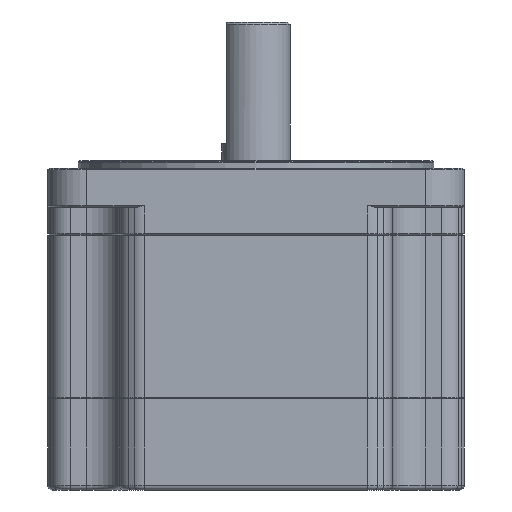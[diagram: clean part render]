
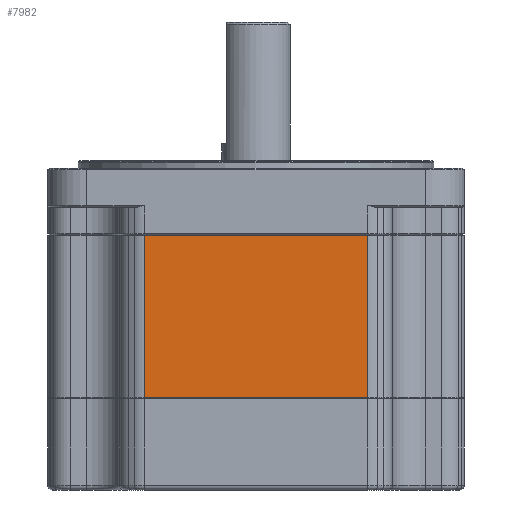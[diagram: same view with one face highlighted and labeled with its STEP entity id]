
A CAD part, front view. The second image highlights one B-rep face of the part: STEP entity #7982.
In plain terms, the highlighted planar face has unit normal (0, -1, 0).
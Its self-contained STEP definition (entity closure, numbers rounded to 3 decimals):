
#559 = EDGE_LOOP ( 'NONE', ( #19725, #19723, #19724, #19722 ) ) ;
#1902 = CARTESIAN_POINT ( 'NONE',  ( 22.879, -42.75, -13.7 ) ) ;
#1903 = DIRECTION ( 'NONE',  ( -1., 0., 0. ) ) ;
#1904 = CARTESIAN_POINT ( 'NONE',  ( -22.879, -42.75, -47.3 ) ) ;
#1905 = DIRECTION ( 'NONE',  ( 0., 0., 1. ) ) ;
#1906 = CARTESIAN_POINT ( 'NONE',  ( 22.879, -42.75, -47.1 ) ) ;
#1907 = DIRECTION ( 'NONE',  ( 1., 0., 0. ) ) ;
#1911 = CARTESIAN_POINT ( 'NONE',  ( 22.879, -42.75, -47.3 ) ) ;
#1912 = DIRECTION ( 'NONE',  ( 0., 0., 1. ) ) ;
#2670 = LINE ( 'NONE', #1911, #15515 ) ;
#2671 = LINE ( 'NONE', #1906, #15519 ) ;
#2672 = LINE ( 'NONE', #1904, #15521 ) ;
#2673 = LINE ( 'NONE', #1902, #15522 ) ;
#4753 = FACE_OUTER_BOUND ( 'NONE', #559, .T. ) ;
#5539 = AXIS2_PLACEMENT_3D ( 'NONE', #13808, #13807, #13806 ) ;
#7982 = ADVANCED_FACE ( 'NONE', ( #4753 ), #13809, .F. ) ;
#9923 = CARTESIAN_POINT ( 'NONE',  ( -22.879, -42.75, -13.7 ) ) ;
#9924 = CARTESIAN_POINT ( 'NONE',  ( -22.879, -42.75, -47.1 ) ) ;
#9925 = CARTESIAN_POINT ( 'NONE',  ( 22.879, -42.75, -13.7 ) ) ;
#9927 = CARTESIAN_POINT ( 'NONE',  ( 22.879, -42.75, -47.1 ) ) ;
#10807 = VERTEX_POINT ( 'NONE', #9927 ) ;
#10808 = VERTEX_POINT ( 'NONE', #9925 ) ;
#10809 = VERTEX_POINT ( 'NONE', #9924 ) ;
#10810 = VERTEX_POINT ( 'NONE', #9923 ) ;
#13806 = DIRECTION ( 'NONE',  ( 0., 0., 1. ) ) ;
#13807 = DIRECTION ( 'NONE',  ( 0., 1., 0. ) ) ;
#13808 = CARTESIAN_POINT ( 'NONE',  ( 22.879, -42.75, -47.3 ) ) ;
#13809 = PLANE ( 'NONE',  #5539 ) ;
#15339 = EDGE_CURVE ( 'NONE', #10808, #10810, #2673, .T. ) ;
#15340 = EDGE_CURVE ( 'NONE', #10809, #10810, #2672, .T. ) ;
#15341 = EDGE_CURVE ( 'NONE', #10809, #10807, #2671, .T. ) ;
#15343 = EDGE_CURVE ( 'NONE', #10807, #10808, #2670, .T. ) ;
#15515 = VECTOR ( 'NONE', #1912, 1000. ) ;
#15519 = VECTOR ( 'NONE', #1907, 1000. ) ;
#15521 = VECTOR ( 'NONE', #1905, 1000. ) ;
#15522 = VECTOR ( 'NONE', #1903, 1000. ) ;
#19722 = ORIENTED_EDGE ( 'NONE', *, *, #15339, .T. ) ;
#19723 = ORIENTED_EDGE ( 'NONE', *, *, #15341, .T. ) ;
#19724 = ORIENTED_EDGE ( 'NONE', *, *, #15343, .T. ) ;
#19725 = ORIENTED_EDGE ( 'NONE', *, *, #15340, .F. ) ;
